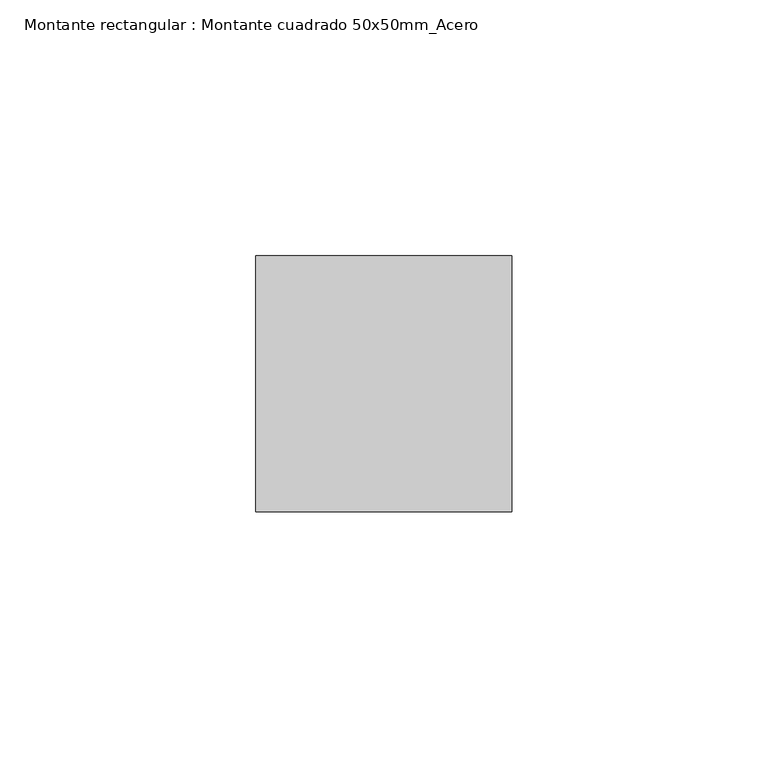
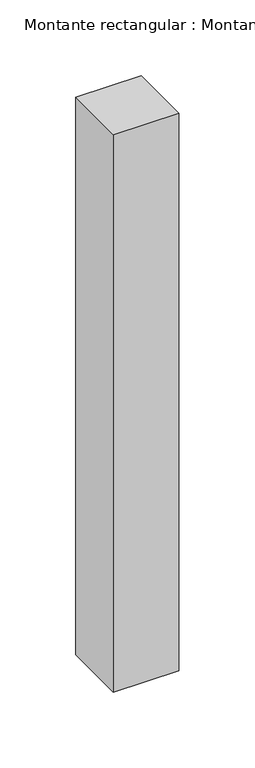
"""IFC4 building model written with IfcOpenShell, lengths in millimetres: member geometry, Montante rectangular : Montante cuadrado 50x50mm_Acero."""

from ifc_helpers import new_model, si_unit, frame, origin, place, context, project, spatial, polyline, outline, extrude, source, transform, mapped, element, save


def montante_rectangular_montante_cuadrado_50x50mm_acero_c0afd770(model_context):
    return source(origin(), model_context, "Body", "SweptSolid", [
        extrude(outline(polyline([(0.0, 0.0), (-50.0, 0.0), (-50.0, 50.0), (0.0, 50.0), (0.0, 0.0)])), frame((0.0, 0.0, -450.0), z_axis=(0.0, 0.0, 1.0), x_axis=(1.0, 0.0, 0.0)), (0.0, 0.0, 1.0), 450.0),
    ])


if __name__ == "__main__":
    model = new_model("IFC4")
    model_context = context("Model", 3, world=origin())
    ifc_project = project(units=[si_unit("LENGTHUNIT", "METRE", prefix="MILLI")], contexts=[model_context])
    site = spatial("IfcSite", under=ifc_project)
    building = spatial("IfcBuilding", under=site)
    placement = place(None, origin())
    montante_rectangular_montante_cuadrado_50x50mm_acero_shape = montante_rectangular_montante_cuadrado_50x50mm_acero_c0afd770(model_context)
    element("IfcMember", 1, ObjectType="Montante rectangular : Montante cuadrado 50x50mm_Acero", at=placement, inside=building, context=model_context, shape_type="MappedRepresentation", body=[
        mapped(montante_rectangular_montante_cuadrado_50x50mm_acero_shape, transform((0.0, 0.0, 0.0), x_axis=(1.0, 0.0, 0.0), y_axis=(0.0, 1.0, 0.0), z_axis=(0.0, 0.0, 1.0))),
    ])
    save(model, "model.ifc")
